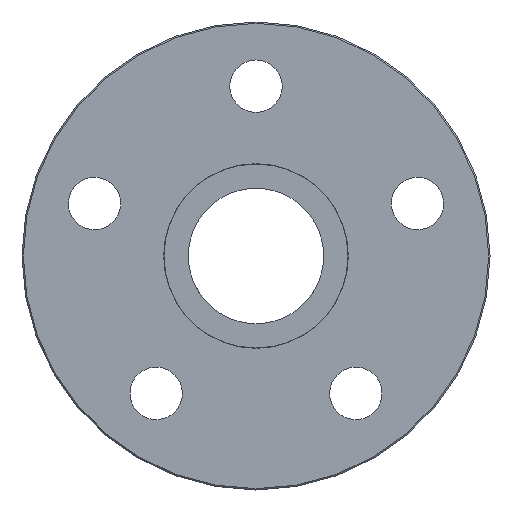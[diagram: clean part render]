
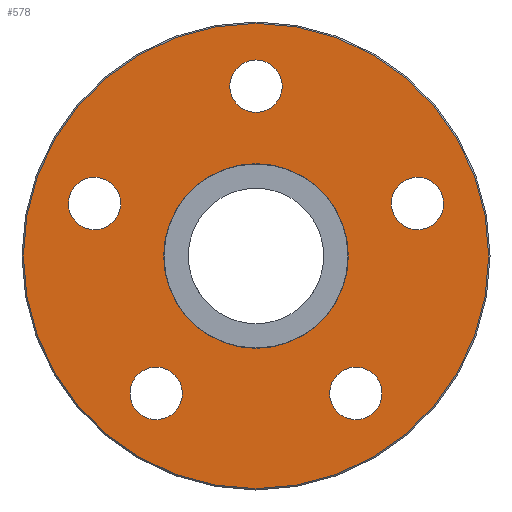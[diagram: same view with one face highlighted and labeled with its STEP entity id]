
A CAD part, front view. The second image highlights one B-rep face of the part: STEP entity #578.
In plain terms, the highlighted planar face has unit normal (0, -1, 0).
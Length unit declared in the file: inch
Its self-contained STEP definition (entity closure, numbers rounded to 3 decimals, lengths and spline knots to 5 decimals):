
#104=FACE_BOUND('',#170,.T.);
#105=FACE_BOUND('',#171,.T.);
#106=FACE_BOUND('',#172,.T.);
#107=FACE_BOUND('',#173,.T.);
#108=FACE_BOUND('',#174,.T.);
#109=FACE_BOUND('',#175,.T.);
#123=PLANE('',#633);
#130=FACE_OUTER_BOUND('',#169,.T.);
#169=EDGE_LOOP('',(#423));
#170=EDGE_LOOP('',(#424));
#171=EDGE_LOOP('',(#425));
#172=EDGE_LOOP('',(#426));
#173=EDGE_LOOP('',(#427));
#174=EDGE_LOOP('',(#428));
#175=EDGE_LOOP('',(#429));
#221=CIRCLE('',#630,0.345);
#224=CIRCLE('',#634,0.87);
#225=CIRCLE('',#635,0.098);
#226=CIRCLE('',#636,0.098);
#227=CIRCLE('',#637,0.098);
#228=CIRCLE('',#638,0.098);
#229=CIRCLE('',#639,0.098);
#273=VERTEX_POINT('',#1117);
#276=VERTEX_POINT('',#1125);
#277=VERTEX_POINT('',#1127);
#278=VERTEX_POINT('',#1129);
#279=VERTEX_POINT('',#1131);
#280=VERTEX_POINT('',#1133);
#281=VERTEX_POINT('',#1135);
#330=EDGE_CURVE('',#273,#273,#221,.T.);
#334=EDGE_CURVE('',#276,#276,#224,.T.);
#335=EDGE_CURVE('',#277,#277,#225,.T.);
#336=EDGE_CURVE('',#278,#278,#226,.T.);
#337=EDGE_CURVE('',#279,#279,#227,.T.);
#338=EDGE_CURVE('',#280,#280,#228,.T.);
#339=EDGE_CURVE('',#281,#281,#229,.T.);
#423=ORIENTED_EDGE('',*,*,#334,.F.);
#424=ORIENTED_EDGE('',*,*,#335,.T.);
#425=ORIENTED_EDGE('',*,*,#336,.T.);
#426=ORIENTED_EDGE('',*,*,#337,.T.);
#427=ORIENTED_EDGE('',*,*,#338,.T.);
#428=ORIENTED_EDGE('',*,*,#339,.T.);
#429=ORIENTED_EDGE('',*,*,#330,.F.);
#578=ADVANCED_FACE('',(#130,#104,#105,#106,#107,#108,#109),#123,.T.);
#630=AXIS2_PLACEMENT_3D('',#1118,#723,#724);
#633=AXIS2_PLACEMENT_3D('',#1124,#730,#731);
#634=AXIS2_PLACEMENT_3D('',#1126,#732,#733);
#635=AXIS2_PLACEMENT_3D('',#1128,#734,#735);
#636=AXIS2_PLACEMENT_3D('',#1130,#736,#737);
#637=AXIS2_PLACEMENT_3D('',#1132,#738,#739);
#638=AXIS2_PLACEMENT_3D('',#1134,#740,#741);
#639=AXIS2_PLACEMENT_3D('',#1136,#742,#743);
#723=DIRECTION('center_axis',(0.,-1.,0.));
#724=DIRECTION('ref_axis',(0.,0.,-1.));
#730=DIRECTION('center_axis',(0.,-1.,0.));
#731=DIRECTION('ref_axis',(0.,0.,-1.));
#732=DIRECTION('center_axis',(0.,1.,0.));
#733=DIRECTION('ref_axis',(0.,0.,-1.));
#734=DIRECTION('center_axis',(0.,1.,0.));
#735=DIRECTION('ref_axis',(-0.951,0.,0.309));
#736=DIRECTION('center_axis',(0.,1.,0.));
#737=DIRECTION('ref_axis',(-0.588,0.,-0.809));
#738=DIRECTION('center_axis',(0.,1.,0.));
#739=DIRECTION('ref_axis',(0.588,0.,-0.809));
#740=DIRECTION('center_axis',(0.,1.,0.));
#741=DIRECTION('ref_axis',(0.951,0.,0.309));
#742=DIRECTION('center_axis',(0.,1.,0.));
#743=DIRECTION('ref_axis',(0.,0.,1.));
#1117=CARTESIAN_POINT('',(0.,0.,0.345));
#1118=CARTESIAN_POINT('Origin',(0.,0.,0.));
#1124=CARTESIAN_POINT('Origin',(0.,0.,0.875));
#1125=CARTESIAN_POINT('',(0.,0.,0.87));
#1126=CARTESIAN_POINT('Origin',(0.,0.,0.));
#1127=CARTESIAN_POINT('',(-0.51072,0.,0.16594));
#1128=CARTESIAN_POINT('Origin',(-0.60392,0.,
0.19623));
#1129=CARTESIAN_POINT('',(-0.31564,0.,-0.43444));
#1130=CARTESIAN_POINT('Origin',(-0.37324,0.,
-0.51373));
#1131=CARTESIAN_POINT('',(0.31564,0.,-0.43444));
#1132=CARTESIAN_POINT('Origin',(0.37324,0.,
-0.51373));
#1133=CARTESIAN_POINT('',(0.51072,0.,0.16594));
#1134=CARTESIAN_POINT('Origin',(0.60392,0.,
0.19623));
#1135=CARTESIAN_POINT('',(0.,0.,0.537));
#1136=CARTESIAN_POINT('Origin',(0.,0.,0.635));
